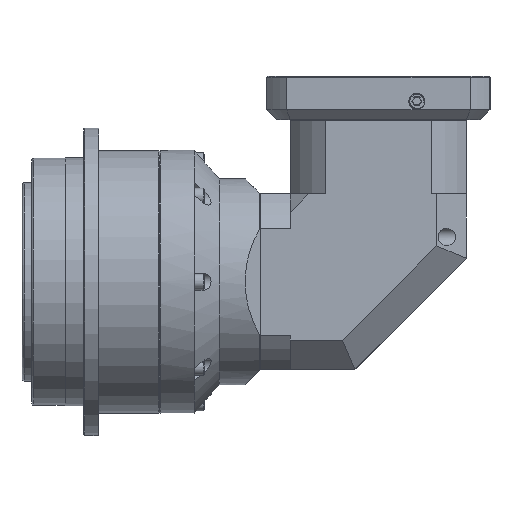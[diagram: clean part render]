
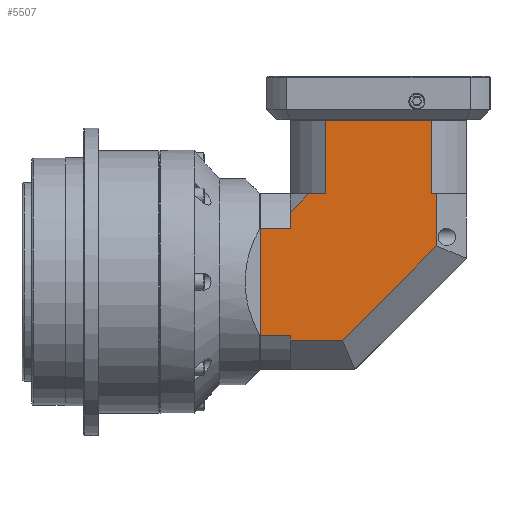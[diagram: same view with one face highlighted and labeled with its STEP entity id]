
A CAD part, left-side view. The second image highlights one B-rep face of the part: STEP entity #5507.
In plain terms, the highlighted planar face has unit normal (-1, 0, 0).
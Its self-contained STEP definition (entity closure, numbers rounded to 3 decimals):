
#5185=CARTESIAN_POINT('',(-84.86,33.915,41.4));
#5186=VERTEX_POINT('',#5185);
#5193=CARTESIAN_POINT('',(-84.86,20.903,41.4));
#5194=VERTEX_POINT('',#5193);
#5195=CARTESIAN_POINT('',(-84.86,20.903,41.4));
#5196=DIRECTION('',(0.0,1.0,0.0));
#5197=VECTOR('',#5196,13.012);
#5198=LINE('',#5195,#5197);
#5199=EDGE_CURVE('',#5194,#5186,#5198,.T.);
#5216=CARTESIAN_POINT('',(-84.86,48.915,13.388));
#5217=VERTEX_POINT('',#5216);
#5218=CARTESIAN_POINT('',(-84.86,48.915,26.4));
#5219=VERTEX_POINT('',#5218);
#5220=CARTESIAN_POINT('',(-84.86,48.915,13.388));
#5221=DIRECTION('',(0.0,0.0,1.0));
#5222=VECTOR('',#5221,13.012);
#5223=LINE('',#5220,#5222);
#5224=EDGE_CURVE('',#5217,#5219,#5223,.T.);
#5406=CARTESIAN_POINT('',(-84.86,-93.085,100.6));
#5407=DIRECTION('',(1.0,0.0,0.0));
#5408=DIRECTION('',(0.0,0.0,-1.0));
#5409=AXIS2_PLACEMENT_3D('',#5406,#5407,#5408);
#5410=PLANE('',#5409);
#5411=CARTESIAN_POINT('',(-84.86,-65.074,41.4));
#5412=VERTEX_POINT('',#5411);
#5413=CARTESIAN_POINT('',(-84.86,-65.074,100.3));
#5414=VERTEX_POINT('',#5413);
#5415=CARTESIAN_POINT('',(-84.86,-65.074,41.4));
#5416=DIRECTION('',(0.0,0.0,1.0));
#5417=VECTOR('',#5416,58.9);
#5418=LINE('',#5415,#5417);
#5419=EDGE_CURVE('',#5412,#5414,#5418,.T.);
#5420=ORIENTED_EDGE('',*,*,#5419,.T.);
#5421=CARTESIAN_POINT('',(-84.86,20.903,100.3));
#5422=VERTEX_POINT('',#5421);
#5423=CARTESIAN_POINT('',(-84.86,-65.074,100.3));
#5424=DIRECTION('',(0.0,1.0,0.0));
#5425=VECTOR('',#5424,85.977);
#5426=LINE('',#5423,#5425);
#5427=EDGE_CURVE('',#5414,#5422,#5426,.T.);
#5428=ORIENTED_EDGE('',*,*,#5427,.T.);
#5429=CARTESIAN_POINT('',(-84.86,20.903,41.4));
#5430=DIRECTION('',(0.0,0.0,1.0));
#5431=VECTOR('',#5430,58.9);
#5432=LINE('',#5429,#5431);
#5433=EDGE_CURVE('',#5194,#5422,#5432,.T.);
#5434=ORIENTED_EDGE('',*,*,#5433,.F.);
#5435=ORIENTED_EDGE('',*,*,#5199,.T.);
#5436=CARTESIAN_POINT('',(-84.86,48.915,26.4));
#5437=DIRECTION('',(0.0,-0.707,0.707));
#5438=VECTOR('',#5437,21.213);
#5439=LINE('',#5436,#5438);
#5440=EDGE_CURVE('',#5219,#5186,#5439,.T.);
#5441=ORIENTED_EDGE('',*,*,#5440,.F.);
#5442=ORIENTED_EDGE('',*,*,#5224,.F.);
#5443=CARTESIAN_POINT('',(-84.86,73.115,13.388));
#5444=VERTEX_POINT('',#5443);
#5445=CARTESIAN_POINT('',(-84.86,48.915,13.388));
#5446=DIRECTION('',(0.0,1.0,0.0));
#5447=VECTOR('',#5446,24.2);
#5448=LINE('',#5445,#5447);
#5449=EDGE_CURVE('',#5217,#5444,#5448,.T.);
#5450=ORIENTED_EDGE('',*,*,#5449,.T.);
#5451=CARTESIAN_POINT('',(-84.86,73.115,-72.588));
#5452=VERTEX_POINT('',#5451);
#5453=CARTESIAN_POINT('',(-84.86,73.115,13.388));
#5454=DIRECTION('',(0.0,0.0,-1.0));
#5455=VECTOR('',#5454,85.977);
#5456=LINE('',#5453,#5455);
#5457=EDGE_CURVE('',#5444,#5452,#5456,.T.);
#5458=ORIENTED_EDGE('',*,*,#5457,.T.);
#5459=CARTESIAN_POINT('',(-84.86,48.915,-72.588));
#5460=VERTEX_POINT('',#5459);
#5461=CARTESIAN_POINT('',(-84.86,48.915,-72.588));
#5462=DIRECTION('',(0.0,1.0,0.0));
#5463=VECTOR('',#5462,24.2);
#5464=LINE('',#5461,#5463);
#5465=EDGE_CURVE('',#5460,#5452,#5464,.T.);
#5466=ORIENTED_EDGE('',*,*,#5465,.F.);
#5467=CARTESIAN_POINT('',(-84.86,48.915,-76.6));
#5468=VERTEX_POINT('',#5467);
#5469=CARTESIAN_POINT('',(-84.86,48.915,-72.588));
#5470=DIRECTION('',(0.0,0.0,-1.0));
#5471=VECTOR('',#5470,4.012);
#5472=LINE('',#5469,#5471);
#5473=EDGE_CURVE('',#5460,#5468,#5472,.T.);
#5474=ORIENTED_EDGE('',*,*,#5473,.T.);
#5475=CARTESIAN_POINT('',(-84.86,6.856,-76.6));
#5476=VERTEX_POINT('',#5475);
#5477=CARTESIAN_POINT('',(-84.86,48.915,-76.6));
#5478=DIRECTION('',(0.0,-1.0,0.0));
#5479=VECTOR('',#5478,42.059);
#5480=LINE('',#5477,#5479);
#5481=EDGE_CURVE('',#5468,#5476,#5480,.T.);
#5482=ORIENTED_EDGE('',*,*,#5481,.T.);
#5483=CARTESIAN_POINT('',(-84.86,-69.085,-0.659));
#5484=VERTEX_POINT('',#5483);
#5485=CARTESIAN_POINT('',(-84.86,6.856,-76.6));
#5486=DIRECTION('',(0.0,-0.707,0.707));
#5487=VECTOR('',#5486,107.397);
#5488=LINE('',#5485,#5487);
#5489=EDGE_CURVE('',#5476,#5484,#5488,.T.);
#5490=ORIENTED_EDGE('',*,*,#5489,.T.);
#5491=CARTESIAN_POINT('',(-84.86,-69.085,41.4));
#5492=VERTEX_POINT('',#5491);
#5493=CARTESIAN_POINT('',(-84.86,-69.085,-0.659));
#5494=DIRECTION('',(0.0,0.0,1.0));
#5495=VECTOR('',#5494,42.059);
#5496=LINE('',#5493,#5495);
#5497=EDGE_CURVE('',#5484,#5492,#5496,.T.);
#5498=ORIENTED_EDGE('',*,*,#5497,.T.);
#5499=CARTESIAN_POINT('',(-84.86,-69.085,41.4));
#5500=DIRECTION('',(0.0,1.0,0.0));
#5501=VECTOR('',#5500,4.012);
#5502=LINE('',#5499,#5501);
#5503=EDGE_CURVE('',#5492,#5412,#5502,.T.);
#5504=ORIENTED_EDGE('',*,*,#5503,.T.);
#5505=EDGE_LOOP('',(#5420,#5428,#5434,#5435,#5441,#5442,#5450,#5458,#5466,#5474,#5482,#5490,#5498,#5504));
#5506=FACE_OUTER_BOUND('',#5505,.T.);
#5507=ADVANCED_FACE('',(#5506),#5410,.F.);
